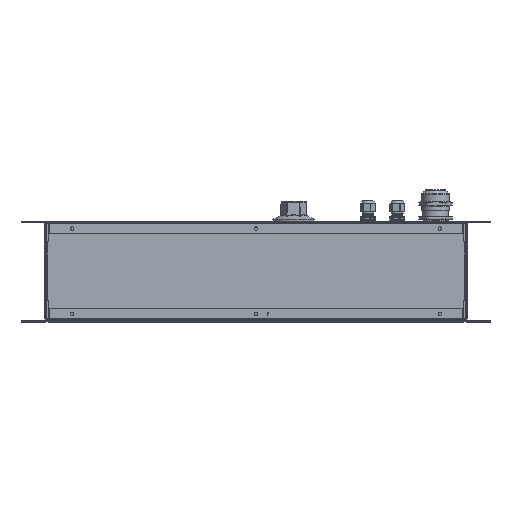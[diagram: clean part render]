
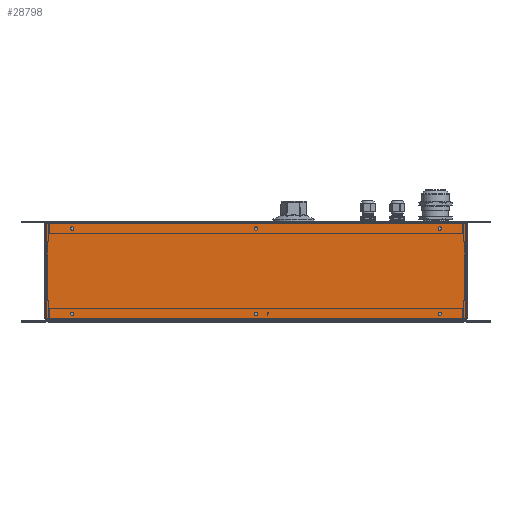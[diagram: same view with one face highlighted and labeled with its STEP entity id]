
A CAD part, top view. The second image highlights one B-rep face of the part: STEP entity #28798.
In plain terms, the highlighted planar face has unit normal (0, 0, 1).
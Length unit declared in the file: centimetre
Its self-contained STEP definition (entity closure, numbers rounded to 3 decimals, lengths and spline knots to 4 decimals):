
#1565=LINE('',#46842,#3530);
#1566=LINE('',#46845,#3531);
#1567=LINE('',#46847,#3532);
#1568=LINE('',#46848,#3533);
#3530=VECTOR('',#37658,50.05);
#3531=VECTOR('',#37661,11.4);
#3532=VECTOR('',#37662,11.4);
#3533=VECTOR('',#37663,50.05);
#6163=PLANE('',#31404);
#7289=FACE_BOUND('',#11442,.T.);
#7290=FACE_BOUND('',#11443,.T.);
#7291=FACE_BOUND('',#11444,.T.);
#7292=FACE_BOUND('',#11445,.T.);
#7293=FACE_BOUND('',#11446,.T.);
#7294=FACE_BOUND('',#11447,.T.);
#8845=FACE_OUTER_BOUND('',#11441,.T.);
#11441=EDGE_LOOP('',(#24237,#24238,#24239,#24240));
#11442=EDGE_LOOP('',(#24241));
#11443=EDGE_LOOP('',(#24242));
#11444=EDGE_LOOP('',(#24243));
#11445=EDGE_LOOP('',(#24244));
#11446=EDGE_LOOP('',(#24245));
#11447=EDGE_LOOP('',(#24246));
#13207=CIRCLE('',#31405,0.21);
#13208=CIRCLE('',#31406,0.21);
#13209=CIRCLE('',#31407,0.21);
#13210=CIRCLE('',#31408,0.21);
#13211=CIRCLE('',#31409,0.21);
#13212=CIRCLE('',#31410,0.21);
#15385=VERTEX_POINT('',#46836);
#15386=VERTEX_POINT('',#46840);
#15387=VERTEX_POINT('',#46844);
#15388=VERTEX_POINT('',#46846);
#15389=VERTEX_POINT('',#46849);
#15390=VERTEX_POINT('',#46851);
#15391=VERTEX_POINT('',#46853);
#15392=VERTEX_POINT('',#46855);
#15393=VERTEX_POINT('',#46857);
#15394=VERTEX_POINT('',#46859);
#18572=EDGE_CURVE('',#15386,#15385,#1565,.T.);
#18573=EDGE_CURVE('',#15387,#15385,#1566,.T.);
#18574=EDGE_CURVE('',#15386,#15388,#1567,.T.);
#18575=EDGE_CURVE('',#15387,#15388,#1568,.T.);
#18576=EDGE_CURVE('',#15389,#15389,#13207,.T.);
#18577=EDGE_CURVE('',#15390,#15390,#13208,.T.);
#18578=EDGE_CURVE('',#15391,#15391,#13209,.T.);
#18579=EDGE_CURVE('',#15392,#15392,#13210,.T.);
#18580=EDGE_CURVE('',#15393,#15393,#13211,.T.);
#18581=EDGE_CURVE('',#15394,#15394,#13212,.T.);
#24237=ORIENTED_EDGE('',*,*,#18573,.T.);
#24238=ORIENTED_EDGE('',*,*,#18572,.F.);
#24239=ORIENTED_EDGE('',*,*,#18574,.T.);
#24240=ORIENTED_EDGE('',*,*,#18575,.F.);
#24241=ORIENTED_EDGE('',*,*,#18576,.T.);
#24242=ORIENTED_EDGE('',*,*,#18577,.T.);
#24243=ORIENTED_EDGE('',*,*,#18578,.T.);
#24244=ORIENTED_EDGE('',*,*,#18579,.T.);
#24245=ORIENTED_EDGE('',*,*,#18580,.T.);
#24246=ORIENTED_EDGE('',*,*,#18581,.T.);
#28798=ADVANCED_FACE('',(#8845,#7289,#7290,#7291,#7292,#7293,#7294),#6163,
 .T.);
#31404=AXIS2_PLACEMENT_3D('',#46843,#37659,#37660);
#31405=AXIS2_PLACEMENT_3D('',#46850,#37664,#37665);
#31406=AXIS2_PLACEMENT_3D('',#46852,#37666,#37667);
#31407=AXIS2_PLACEMENT_3D('',#46854,#37668,#37669);
#31408=AXIS2_PLACEMENT_3D('',#46856,#37670,#37671);
#31409=AXIS2_PLACEMENT_3D('',#46858,#37672,#37673);
#31410=AXIS2_PLACEMENT_3D('',#46860,#37674,#37675);
#37658=DIRECTION('',(-1.,0.,0.));
#37659=DIRECTION('center_axis',(0.,0.,1.));
#37660=DIRECTION('ref_axis',(1.,0.,0.));
#37661=DIRECTION('',(0.,-1.,0.));
#37662=DIRECTION('',(0.,1.,0.));
#37663=DIRECTION('',(1.,0.,0.));
#37664=DIRECTION('center_axis',(0.,0.,-1.));
#37665=DIRECTION('ref_axis',(1.,0.,0.));
#37666=DIRECTION('center_axis',(0.,0.,-1.));
#37667=DIRECTION('ref_axis',(1.,0.,0.));
#37668=DIRECTION('center_axis',(0.,0.,-1.));
#37669=DIRECTION('ref_axis',(1.,0.,0.));
#37670=DIRECTION('center_axis',(0.,0.,-1.));
#37671=DIRECTION('ref_axis',(1.,0.,0.));
#37672=DIRECTION('center_axis',(0.,0.,-1.));
#37673=DIRECTION('ref_axis',(1.,0.,0.));
#37674=DIRECTION('center_axis',(0.,0.,-1.));
#37675=DIRECTION('ref_axis',(1.,0.,0.));
#46836=CARTESIAN_POINT('',(-25.025,-5.7,10.125));
#46840=CARTESIAN_POINT('',(25.025,-5.7,10.125));
#46842=CARTESIAN_POINT('',(25.15,-5.7,10.125));
#46843=CARTESIAN_POINT('Origin',(0.,0.,
10.125));
#46844=CARTESIAN_POINT('',(-25.025,5.7,10.125));
#46845=CARTESIAN_POINT('',(-25.025,2.85,10.125));
#46846=CARTESIAN_POINT('',(25.025,5.7,10.125));
#46847=CARTESIAN_POINT('',(25.025,-2.85,10.125));
#46848=CARTESIAN_POINT('',(-25.15,5.7,10.125));
#46849=CARTESIAN_POINT('',(-0.21,-5.1,10.125));
#46850=CARTESIAN_POINT('Origin',(0.,-5.1,
10.125));
#46851=CARTESIAN_POINT('',(-0.21,5.1,10.125));
#46852=CARTESIAN_POINT('Origin',(0.,5.1,10.125));
#46853=CARTESIAN_POINT('',(-22.21,5.1,10.125));
#46854=CARTESIAN_POINT('Origin',(-22.,5.1,10.125));
#46855=CARTESIAN_POINT('',(21.79,5.1,10.125));
#46856=CARTESIAN_POINT('Origin',(22.,5.1,10.125));
#46857=CARTESIAN_POINT('',(21.79,-5.1,10.125));
#46858=CARTESIAN_POINT('Origin',(22.,-5.1,10.125));
#46859=CARTESIAN_POINT('',(-22.21,-5.1,10.125));
#46860=CARTESIAN_POINT('Origin',(-22.,-5.1,10.125));
